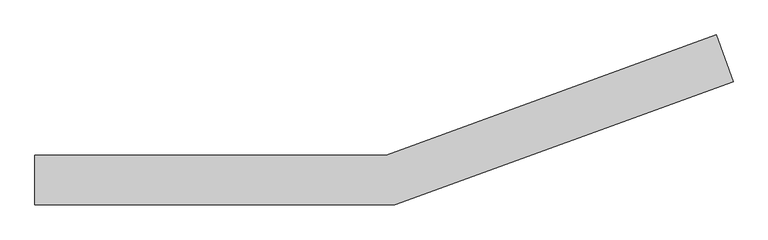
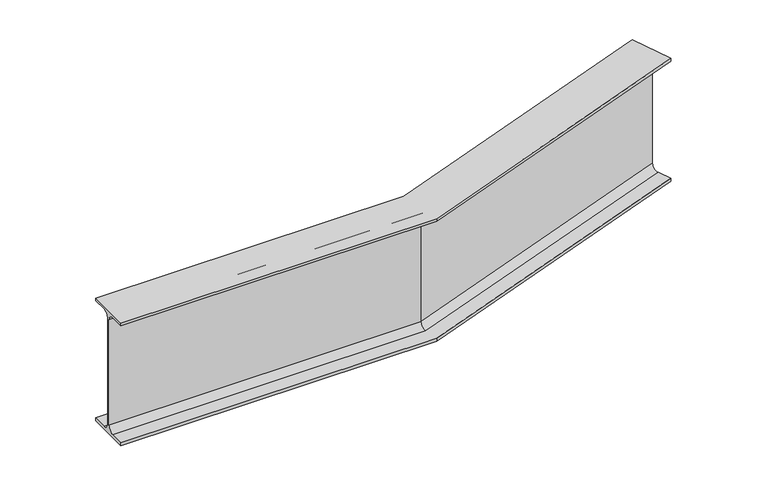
"""IFC4 building model written with IfcOpenShell, lengths in millimetres: beam geometry, Cranked Beam B2 : Cranked Beam B1."""

from ifc_helpers import new_model, si_unit, frame, origin, place, context, project, spatial, polyline, circle_curve, ellipse_curve, source, transform, mapped, element, save
from ifc_brep_helpers import plane_surface, revolved_surface, advanced_brep


def beam_66a8d71c(model_context):
    return source(origin(), model_context, "Body", "AdvancedBrep", [
        advanced_brep(
        [(30484.4500022, 15287.2000005, 7155.0), (30484.4500022, 15337.2000005, 7155.0), (30484.4500022, 15359.2000005, 7177.0), (30484.4500022, 15359.2000005, 7563.0), (30484.4500022, 15337.2000005, 7585.0), (30484.4500022, 15287.2000005, 7585.0), (30484.4500022, 15287.2000005, 7595.0), (30484.4500022, 15439.2000005, 7595.0), (30484.4500022, 15439.2000005, 7585.0), (30484.4500022, 15389.2000005, 7585.0), (30484.4500022, 15367.2000005, 7563.0), (30484.4500022, 15367.2000005, 7177.0), (30484.4500022, 15389.2000005, 7155.0), (30484.4500022, 15439.2000005, 7155.0), (30484.4500022, 15439.2000005, 7145.0), (30484.4500022, 15287.2000005, 7145.0), (31580.6961428, 15287.2000005, 7155.0), (32610.830551, 15662.1382623, 7155.0), (32593.7295439, 15709.1228934, 7155.0), (31571.8797938, 15337.2000005, 7155.0), (31568.0006002, 15359.2000005, 7177.0), (31568.0006002, 15359.2000005, 7563.0), (31571.8797938, 15337.2000005, 7585.0), (32593.7295439, 15709.1228934, 7585.0), (32610.830551, 15662.1382623, 7585.0), (31580.6961428, 15287.2000005, 7585.0), (31580.6961428, 15287.2000005, 7595.0), (32610.830551, 15662.1382623, 7595.0), (32558.8434892, 15804.9715407, 7595.0), (31553.8944418, 15439.2000005, 7595.0), (31553.8944418, 15439.2000005, 7585.0), (32558.8434892, 15804.9715407, 7585.0), (32575.9444964, 15757.9869096, 7585.0), (31562.7107908, 15389.2000005, 7585.0), (31566.5899844, 15367.2000005, 7563.0), (31566.5899844, 15367.2000005, 7177.0), (31562.7107908, 15389.2000005, 7155.0), (32575.9444964, 15757.9869096, 7155.0), (32558.8434892, 15804.9715407, 7155.0), (31553.8944418, 15439.2000005, 7155.0), (31553.8944418, 15439.2000005, 7145.0), (32558.8434892, 15804.9715407, 7145.0), (32610.830551, 15662.1382623, 7145.0), (31580.6961428, 15287.2000005, 7145.0), (32583.4689396, 15737.313672, 7177.0), (32583.4689396, 15737.313672, 7563.0), (32586.2051007, 15729.796131, 7563.0), (32586.2051007, 15729.796131, 7177.0)],
        [
            (0, 1),
            (1, 2, circle_curve(frame((30484.4500022, 15337.2000005, 7177.0), z_axis=(1.0, 0.0, 0.0), x_axis=(0.0, 1.0, 0.0)), 22.0)),
            (2, 3),
            (3, 4, circle_curve(frame((30484.4500022, 15337.2000005, 7563.0), z_axis=(1.0, 0.0, 0.0), x_axis=(0.0, 1.0, 0.0)), 22.0)),
            (4, 5),
            (5, 6),
            (6, 7),
            (7, 8),
            (8, 9),
            (9, 10, circle_curve(frame((30484.4500022, 15389.2000005, 7563.0), z_axis=(1.0, 0.0, 0.0), x_axis=(0.0, 1.0, 0.0)), 22.0)),
            (10, 11),
            (11, 12, circle_curve(frame((30484.4500022, 15389.2000005, 7177.0), z_axis=(1.0, 0.0, 0.0), x_axis=(0.0, 1.0, 0.0)), 22.0)),
            (12, 13),
            (13, 14),
            (14, 15),
            (15, 0),
            (0, 16),
            (16, 17),
            (17, 18),
            (18, 19),
            (19, 1),
            (19, 20, ellipse_curve(frame((31571.8797938, 15337.2000005, 7177.0), z_axis=(0.9848077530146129, 0.17364817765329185, 0.0), x_axis=(0.17364817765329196, -0.984807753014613, 0.0)), 22.3393855, 22.0)),
            (20, 2),
            (20, 21),
            (21, 3),
            (21, 22, ellipse_curve(frame((31571.8797938, 15337.2000005, 7563.0), z_axis=(0.9848077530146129, 0.17364817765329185, 0.0), x_axis=(0.17364817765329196, -0.984807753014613, 0.0)), 22.3393855, 22.0)),
            (22, 4),
            (22, 23),
            (23, 24),
            (24, 25),
            (25, 5),
            (25, 26),
            (26, 6),
            (26, 27),
            (27, 28),
            (28, 29),
            (29, 7),
            (29, 30),
            (30, 8),
            (30, 31),
            (31, 32),
            (32, 33),
            (33, 9),
            (33, 34, ellipse_curve(frame((31562.7107908, 15389.2000005, 7563.0), z_axis=(0.9848077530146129, 0.17364817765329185, 0.0), x_axis=(0.17364817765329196, -0.984807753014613, 0.0)), 22.3393855, 22.0)),
            (34, 10),
            (34, 35),
            (35, 11),
            (35, 36, ellipse_curve(frame((31562.7107908, 15389.2000005, 7177.0), z_axis=(0.9848077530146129, 0.17364817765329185, 0.0), x_axis=(0.17364817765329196, -0.984807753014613, 0.0)), 22.3393855, 22.0)),
            (36, 12),
            (36, 37),
            (37, 38),
            (38, 39),
            (39, 13),
            (39, 40),
            (40, 14),
            (40, 41),
            (41, 42),
            (42, 43),
            (43, 15),
            (43, 16),
            (17, 42),
            (41, 38),
            (37, 44, circle_curve(frame((32575.9444964, 15757.9869096, 7177.0), z_axis=(-0.9396926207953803, -0.34202014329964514, 0.0), x_axis=(-0.34202014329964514, 0.9396926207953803, 0.0)), 22.0)),
            (44, 45),
            (45, 32, circle_curve(frame((32575.9444964, 15757.9869096, 7563.0), z_axis=(-0.9396926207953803, -0.34202014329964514, 0.0), x_axis=(-0.34202014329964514, 0.9396926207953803, 0.0)), 22.0)),
            (31, 28),
            (27, 24),
            (23, 46, circle_curve(frame((32593.7295439, 15709.1228934, 7563.0), z_axis=(-0.9396926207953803, -0.34202014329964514, 0.0), x_axis=(-0.34202014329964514, 0.9396926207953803, 0.0)), 22.0)),
            (46, 47),
            (47, 18, circle_curve(frame((32593.7295439, 15709.1228934, 7177.0), z_axis=(-0.9396926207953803, -0.34202014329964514, 0.0), x_axis=(-0.34202014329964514, 0.9396926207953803, 0.0)), 22.0)),
            (47, 20),
            (46, 21),
            (45, 34),
            (44, 35),
        ],
        [
            plane_surface(frame((30484.4500022, 15363.2000005, 7595.0), z_axis=(-1.0, 0.0, 0.0), x_axis=(0.0, 0.0, 1.0))),
            plane_surface(frame((30484.4500022, 15287.2000005, 7155.0), z_axis=(0.0, 0.0, 1.0), x_axis=(1.0, 0.0, 0.0))),
            revolved_surface(polyline([(31575.758987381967, 15359.2000005, 7177.0), (30484.4500022, 15359.2000005, 7177.0)]), (30484.4500022, 15337.2000005, 7177.0), (1.0, 0.0, 0.0)),
            plane_surface(frame((30484.4500022, 15359.2000005, 7177.0), z_axis=(0.0, -1.0, 0.0), x_axis=(1.0, 0.0, 0.0))),
            revolved_surface(polyline([(31575.758987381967, 15359.2000005, 7563.0), (30484.4500022, 15359.2000005, 7563.0)]), (30484.4500022, 15337.2000005, 7563.0), (1.0, 0.0, 0.0)),
            plane_surface(frame((30484.4500022, 15337.2000005, 7585.0), z_axis=(0.0, 0.0, -1.0), x_axis=(1.0, 0.0, 0.0))),
            plane_surface(frame((30484.4500022, 15287.2000005, 7585.0), z_axis=(0.0, -1.0, 0.0), x_axis=(1.0, 0.0, 0.0))),
            plane_surface(frame((30484.4500022, 15287.2000005, 7595.0), z_axis=(0.0, 0.0, 1.0), x_axis=(1.0, 0.0, 0.0))),
            plane_surface(frame((30484.4500022, 15439.2000005, 7595.0), z_axis=(0.0, 1.0, 0.0), x_axis=(1.0, 0.0, 0.0))),
            plane_surface(frame((30484.4500022, 15439.2000005, 7585.0), z_axis=(0.0, 0.0, -1.0), x_axis=(1.0, 0.0, 0.0))),
            revolved_surface(polyline([(31566.5899844, 15411.2000005, 7563.0), (30484.4500022, 15411.2000005, 7563.0)]), (30484.4500022, 15389.2000005, 7563.0), (1.0, 0.0, 0.0)),
            plane_surface(frame((30484.4500022, 15367.2000005, 7563.0), z_axis=(0.0, 1.0, 0.0), x_axis=(1.0, 0.0, 0.0))),
            revolved_surface(polyline([(31566.5899844, 15411.2000005, 7177.0), (30484.4500022, 15411.2000005, 7177.0)]), (30484.4500022, 15389.2000005, 7177.0), (1.0, 0.0, 0.0)),
            plane_surface(frame((30484.4500022, 15389.2000005, 7155.0), z_axis=(0.0, 0.0, 1.0), x_axis=(1.0, 0.0, 0.0))),
            plane_surface(frame((30484.4500022, 15439.2000005, 7155.0), z_axis=(0.0, 1.0, 0.0), x_axis=(1.0, 0.0, 0.0))),
            plane_surface(frame((30484.4500022, 15439.2000005, 7145.0), z_axis=(0.0, 0.0, -1.0), x_axis=(1.0, 0.0, 0.0))),
            plane_surface(frame((30484.4500022, 15287.2000005, 7145.0), z_axis=(0.0, -1.0, 0.0), x_axis=(1.0, 0.0, 0.0))),
            plane_surface(frame((32584.8370201, 15733.5549015, 7595.0), z_axis=(0.9396926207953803, 0.34202014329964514, 0.0), x_axis=(0.0, 0.0, 1.0))),
            revolved_surface(polyline([(32586.205100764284, 15729.796131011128, 7177.0), (31560.710101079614, 15356.54647576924, 7177.0)]), (31576.187816, 15338.7679923, 7177.0), (0.9396926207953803, 0.34202014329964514, 0.0)),
            plane_surface(frame((31568.0006002, 15359.2000005, 7177.0), z_axis=(0.342020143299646, -0.9396926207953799, 0.0), x_axis=(0.9396926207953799, 0.342020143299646, 0.0))),
            revolved_surface(polyline([(32586.205100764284, 15729.796131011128, 7563.0), (31560.710101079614, 15356.54647576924, 7563.0)]), (31576.187816, 15338.7679923, 7563.0), (0.9396926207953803, 0.34202014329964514, 0.0)),
            plane_surface(frame((31580.6961428, 15287.2000005, 7585.0), z_axis=(0.3420201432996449, -0.9396926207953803, 0.0), x_axis=(0.9396926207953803, 0.3420201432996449, 0.0))),
            plane_surface(frame((31553.8944418, 15439.2000005, 7595.0), z_axis=(-0.3420201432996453, 0.9396926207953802, 0.0), x_axis=(0.9396926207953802, 0.3420201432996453, 0.0))),
            revolved_surface(polyline([(32568.420053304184, 15778.660147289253, 7563.0), (31551.541098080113, 15408.546475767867, 7563.0)]), (31558.4027686, 15387.6320086, 7563.0), (0.9396926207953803, 0.34202014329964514, 0.0)),
            plane_surface(frame((31566.5899844, 15367.2000005, 7563.0), z_axis=(-0.3420201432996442, 0.9396926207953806, 0.0), x_axis=(0.9396926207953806, 0.3420201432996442, 0.0))),
            revolved_surface(polyline([(32568.420053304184, 15778.660147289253, 7177.0), (31551.541098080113, 15408.546475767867, 7177.0)]), (31558.4027686, 15387.6320086, 7177.0), (0.9396926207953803, 0.34202014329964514, 0.0)),
            plane_surface(frame((31553.8944418, 15439.2000005, 7155.0), z_axis=(-0.3420201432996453, 0.9396926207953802, 0.0), x_axis=(0.9396926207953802, 0.3420201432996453, 0.0))),
            plane_surface(frame((31580.6961428, 15287.2000005, 7145.0), z_axis=(0.3420201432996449, -0.9396926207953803, 0.0), x_axis=(0.9396926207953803, 0.3420201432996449, 0.0))),
        ],
        [
            (0, [[1, 2, 3, 4, 5, 6, 7, 8, 9, 10, 11, 12, 13, 14, 15, 16]]),
            (1, [[-1, 17, 18, 19, 20, 21]]),
            (2, [[-2, -21, 22, 23]]),
            (3, [[-3, -23, 24, 25]]),
            (4, [[-4, -25, 26, 27]]),
            (5, [[-5, -27, 28, 29, 30, 31]]),
            (6, [[-6, -31, 32, 33]]),
            (7, [[-7, -33, 34, 35, 36, 37]]),
            (8, [[-8, -37, 38, 39]]),
            (9, [[-9, -39, 40, 41, 42, 43]]),
            (10, [[-10, -43, 44, 45]]),
            (11, [[-11, -45, 46, 47]]),
            (12, [[-12, -47, 48, 49]]),
            (13, [[-13, -49, 50, 51, 52, 53]]),
            (14, [[-14, -53, 54, 55]]),
            (15, [[-15, -55, 56, 57, 58, 59]]),
            (16, [[-16, -59, 60, -17]]),
            (17, [[61, -57, 62, -51, 63, 64, 65, -41, 66, -35, 67, -29, 68, 69, 70, -19]]),
            (18, [[-22, -20, -70, 71]]),
            (19, [[-24, -71, -69, 72]]),
            (20, [[-26, -72, -68, -28]]),
            (21, [[-32, -30, -67, -34]]),
            (22, [[-38, -36, -66, -40]]),
            (23, [[-44, -42, -65, 73]]),
            (24, [[-46, -73, -64, 74]]),
            (25, [[-48, -74, -63, -50]]),
            (26, [[-54, -52, -62, -56]]),
            (27, [[-60, -58, -61, -18]]),
        ],
    ),
    ])


if __name__ == "__main__":
    model = new_model("IFC4")
    model_context = context("Model", 3, world=origin())
    ifc_project = project(units=[si_unit("LENGTHUNIT", "METRE", prefix="MILLI")], contexts=[model_context])
    site = spatial("IfcSite", under=ifc_project)
    building = spatial("IfcBuilding", under=site)
    placement = place(None, origin())
    beam_shape = beam_66a8d71c(model_context)
    element("IfcBeam", 1, ObjectType="Cranked Beam B2 : Cranked Beam B1", at=placement, inside=building, context=model_context, shape_type="MappedRepresentation", body=[
        mapped(beam_shape, transform((0.0, 0.0, 0.0), x_axis=(1.0, 0.0, 0.0), y_axis=(0.0, 1.0, 0.0), z_axis=(0.0, 0.0, 1.0))),
    ])
    save(model, "model.ifc")
